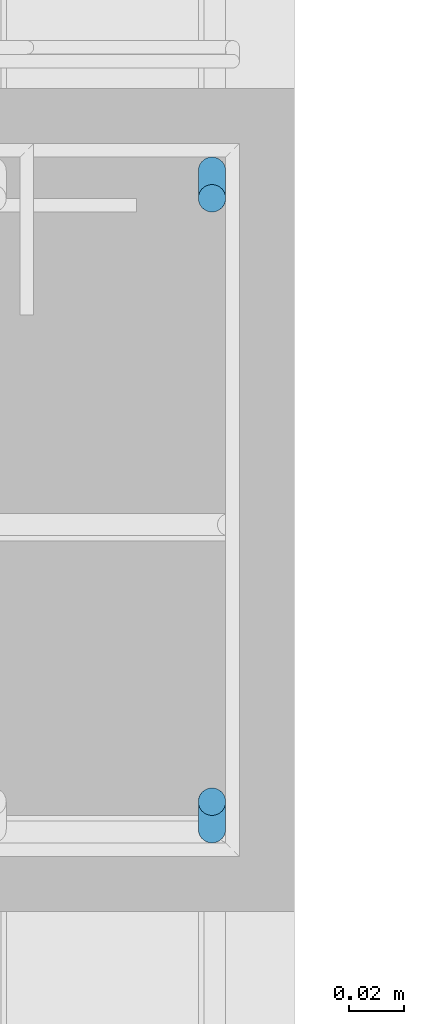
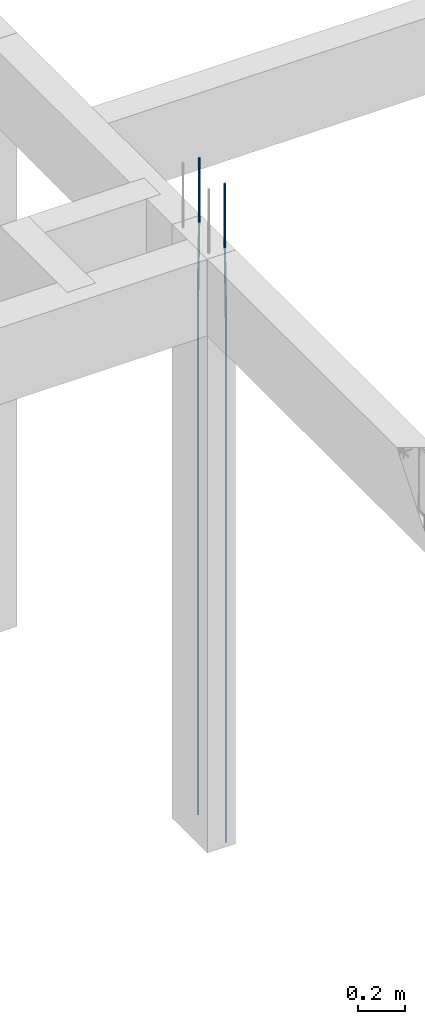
# One storey, part 60 of 236: 2 reinforcing bars.
"""IFC4 building model written with IfcOpenShell, lengths in centimetres."""

from ifc_helpers import new_model, entity, si_unit, derived_unit, frame, origin_with_axes, place, context, project, spatial, element, save


model = new_model("IFC4")

# Units and contexts
model_context = context("Model", 3, precision=1e-05, world=origin_with_axes(), identifier="Body")
ifc_project = project(units=[si_unit("LENGTHUNIT", "METRE", prefix="CENTI"), si_unit("VOLUMEUNIT", "CUBIC_METRE"), si_unit("AREAUNIT", "SQUARE_METRE"), si_unit("POWERUNIT", "WATT"), si_unit("LUMINOUSFLUXUNIT", "LUMEN"), si_unit("ELECTRICCURRENTUNIT", "AMPERE"), si_unit("PRESSUREUNIT", "PASCAL", prefix="KILO"), si_unit("MASSUNIT", "GRAM", prefix="KILO"), si_unit("PLANEANGLEUNIT", "RADIAN"), derived_unit("VOLUMETRICFLOWRATEUNIT", [(si_unit("LENGTHUNIT", "METRE"), 3), (si_unit("TIMEUNIT", "SECOND"), -1)])], contexts=[model_context])

# Site, building, storey
site_placement = place(None, frame((-4000.0, 0.0, 0.0), z_axis=(0.0, 0.0, 1.0), x_axis=(1.0, 0.0, 0.0)))
site = spatial("IfcSite", under=ifc_project, at=site_placement, Name="PADRÃO")
building_placement = place(site_placement, frame((0.0, 0.0, -14.0)))
building = spatial("IfcBuilding", under=site, at=building_placement, Name="CRECHE PRÉ-ESCOLA TIPO 2")
placement_1 = place(building_placement, origin_with_axes())
placement_2 = place(placement_1, frame((0.0, 0.0, 30.0), z_axis=(0.0, 0.0, 1.0), x_axis=(1.0, 0.0, 0.0)))
storey_placement = place(placement_2, frame((0.0, 0.0, 310.0), z_axis=(0.0, 0.0, 1.0), x_axis=(1.0, 0.0, 0.0)))
storey = spatial("IfcBuildingStorey", under=building, at=storey_placement, Name="TERREO", CompositionType="ELEMENT", Elevation=326.0)

# Reinforcing bars
reinforcing_bar_1_placement = place(storey_placement, frame((507.69, 1833.0, 33.3573001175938), z_axis=(0.0, 0.0, 1.0), x_axis=(1.0, 0.0, 0.0)))
element("IfcReinforcingBar", 1, at=reinforcing_bar_1_placement, inside=storey, Name="P95 - Longitudinal", BarLength=0.0, CrossSectionArea=7.853981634e-05, NominalDiameter=1.0, PredefinedType="MAIN", context=model_context, shape_type="AdvancedSweptSolid", body=[
    entity("IfcSweptDiskSolid", entity("IfcCompositeCurve", [entity("IfcCompositeCurveSegment", "CONTINUOUS", True, entity("IfcPolyline", [entity("IfcCartesianPoint", [0.0, 0.5, -343.357300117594]), entity("IfcCartesianPoint", [0.0, 0.5, -73.3573001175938])])), entity("IfcCompositeCurveSegment", "CONTINUOUS", True, entity("IfcPolyline", [entity("IfcCartesianPoint", [0.0, 0.5, -73.3573001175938]), entity("IfcCartesianPoint", [0.0, -0.5, -33.3573001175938])])), entity("IfcCompositeCurveSegment", "CONTINUOUS", True, entity("IfcPolyline", [entity("IfcCartesianPoint", [0.0, -0.5, -33.3573001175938]), entity("IfcCartesianPoint", [0.0, -0.5, 0.0])]))], False), 0.5),
])
reinforcing_bar_2_placement = place(storey_placement, frame((507.69, 1810.0, 33.3573001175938), z_axis=(0.0, 0.0, 1.0), x_axis=(1.0, 0.0, 0.0)))
element("IfcReinforcingBar", 2, at=reinforcing_bar_2_placement, inside=storey, Name="P95 - Longitudinal", BarLength=0.0, CrossSectionArea=7.853981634e-05, NominalDiameter=1.0, PredefinedType="MAIN", context=model_context, shape_type="AdvancedSweptSolid", body=[
    entity("IfcSweptDiskSolid", entity("IfcCompositeCurve", [entity("IfcCompositeCurveSegment", "CONTINUOUS", True, entity("IfcPolyline", [entity("IfcCartesianPoint", [0.0, -0.5, -343.357300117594]), entity("IfcCartesianPoint", [0.0, -0.5, -73.3573001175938])])), entity("IfcCompositeCurveSegment", "CONTINUOUS", True, entity("IfcPolyline", [entity("IfcCartesianPoint", [0.0, -0.5, -73.3573001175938]), entity("IfcCartesianPoint", [0.0, 0.5, -33.3573001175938])])), entity("IfcCompositeCurveSegment", "CONTINUOUS", True, entity("IfcPolyline", [entity("IfcCartesianPoint", [0.0, 0.5, -33.3573001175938]), entity("IfcCartesianPoint", [0.0, 0.5, 0.0])]))], False), 0.5),
])

save(model, "model.ifc")
